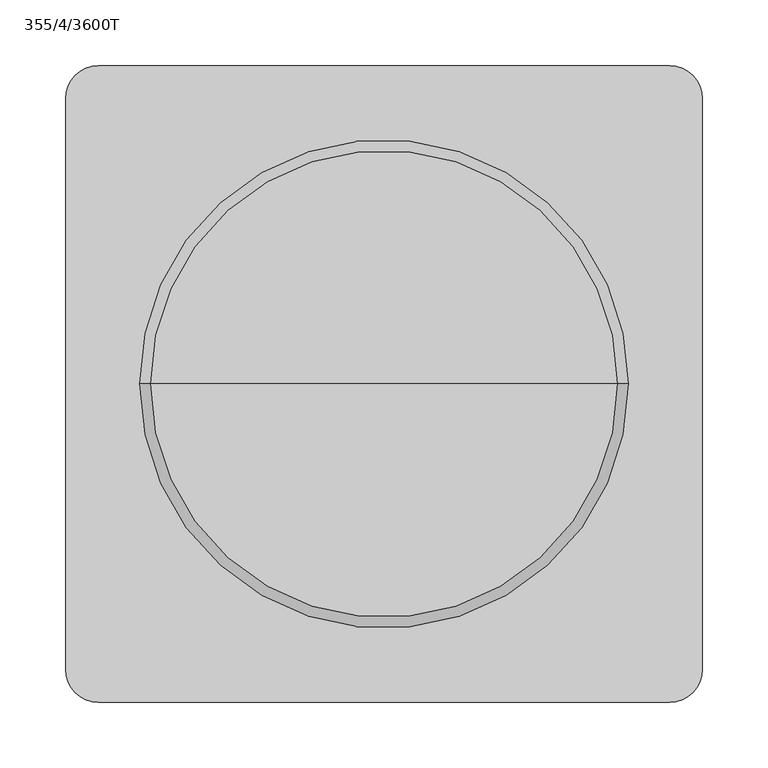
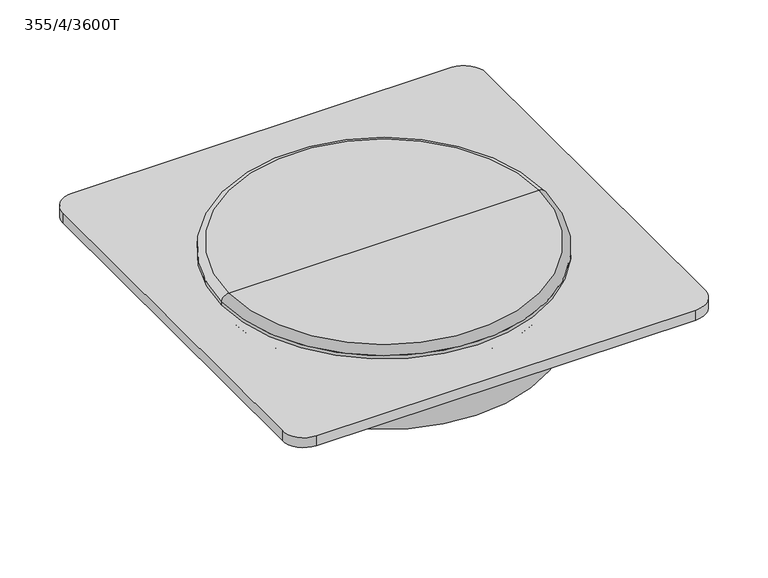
"""IFC4 building model written with IfcOpenShell, lengths in millimetres: unitary equipment geometry, VE-Wentylator-ParaForma-Harmann-WAF-Wywiewny : 355/4/3600T."""

from ifc_helpers import new_model, si_unit, point, frame, frame_2d, origin, origin_with_axes, origin_2d, place, context, project, spatial, polyline, circle_curve, ellipse_curve, trimmed, segment, composite_curve, outline, extrude, source, transform, mapped, element, save
from ifc_brep_helpers import plane_surface, cylinder_surface, revolved_surface, advanced_brep


def unitary_equipment_355_4_3600t_8e2043ff(model_context):
    return source(origin(), model_context, "Body", "SolidModel", [
        advanced_brep(
        [(186.0, 0.0, 12.0), (-186.0, 0.0, 12.0), (0.0, 0.0, 12.0), (186.0, 0.0, 16.0), (-186.0, 0.0, 16.0), (178.0, 0.0, 24.0), (-178.0, 0.0, 24.0), (0.0, 0.0, 24.0)],
        [
            (0, 1, circle_curve(frame((0.0, 0.0, 12.0), z_axis=(0.0, 0.0, -1.0), x_axis=(-1.0000000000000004, 0.0, 0.0)), 186.0)),
            (1, 2),
            (2, 0),
            (1, 0, circle_curve(frame((0.0, 0.0, 12.0), z_axis=(0.0, 0.0, -1.0), x_axis=(-1.0000000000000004, 0.0, 0.0)), 186.0)),
            (3, 4, circle_curve(frame((0.0, 0.0, 16.0), z_axis=(0.0, 0.0, -1.0), x_axis=(-1.0000000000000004, 0.0, 0.0)), 186.0)),
            (4, 1),
            (0, 3),
            (4, 3, circle_curve(frame((0.0, 0.0, 16.0), z_axis=(0.0, 0.0, -1.0), x_axis=(-1.0000000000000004, 0.0, 0.0)), 186.0)),
            (5, 6, circle_curve(frame((0.0, 0.0, 24.0), z_axis=(0.0, 0.0, -1.0), x_axis=(-1.0000000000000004, 0.0, 0.0)), 178.0)),
            (6, 4, circle_curve(frame((-178.0, 0.0, 16.0), z_axis=(0.0, -1.0000000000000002, 0.0), x_axis=(0.0, 0.0, -1.0000000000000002)), 8.0)),
            (3, 5, circle_curve(frame((178.0, 0.0, 16.0), z_axis=(0.0, -1.0000000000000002, 0.0), x_axis=(0.0, 0.0, -1.0000000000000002)), 8.0)),
            (6, 5, circle_curve(frame((0.0, 0.0, 24.0), z_axis=(0.0, 0.0, -1.0), x_axis=(-1.0000000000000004, 0.0, 0.0)), 178.0)),
            (7, 6),
            (5, 7),
        ],
        [
            plane_surface(frame((0.0, 0.0, 12.0), z_axis=(0.0, 0.0, -1.0), x_axis=(-1.0, 0.0, 0.0))),
            cylinder_surface(frame((0.0, 0.0, 24.0), z_axis=(0.0, 0.0, 1.0000000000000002), x_axis=(-1.0000000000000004, 0.0, 0.0)), 186.0),
            revolved_surface(trimmed(ellipse_curve(frame((-178.0, 0.0, 16.0), z_axis=(0.0, 1.0000000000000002, 0.0), x_axis=(0.0, 0.0, -1.0000000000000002)), 8.0, 8.0), [point((-186.0, 0.0, 16.0))], [point((-178.0, 0.0, 24.0))], True, "CARTESIAN"), (0.0, 0.0, 24.0), (0.0, 0.0, 1.0000000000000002)),
            plane_surface(frame((0.0, 0.0, 24.0), z_axis=(0.0, 0.0, 1.0), x_axis=(-1.0, 0.0, 0.0))),
        ],
        [
            (0, [[1, 2, 3]]),
            (0, [[4, -3, -2]]),
            (1, [[5, 6, -1, 7]]),
            (1, [[8, -7, -4, -6]]),
            (2, [[9, 10, -5, 11]]),
            (2, [[12, -11, -8, -10]]),
            (3, [[13, -9, 14]]),
            (3, [[-14, -12, -13]]),
        ],
    ),
        extrude(outline(composite_curve([segment(trimmed(circle_curve(origin_2d(), 55.8), [point((55.8, 0.0))], [point((-55.8, 0.0))], False, "CARTESIAN"), True, "CONTINUOUS"), segment(trimmed(circle_curve(origin_2d(), 55.8), [point((-55.8, 0.0))], [point((55.8, 0.0))], False, "CARTESIAN"), True, "CONTINUOUS")], self_intersect=False)), frame((0.0, 0.0, -90.0), z_axis=(0.0, 0.0, 1.0), x_axis=(1.0, 0.0, 0.0)), (0.0, 0.0, 1.0), 15.0),
        advanced_brep(
        [(0.0, 0.0, 0.0), (-186.0, 0.0, 0.0), (186.0, 0.0, 0.0), (183.5, 0.0, -75.0), (-183.5, 0.0, -75.0), (0.0, 0.0, -75.0), (183.5, 0.0, -2.5), (-183.5, 0.0, -2.5)],
        [
            (0, 1),
            (1, 2, circle_curve(frame((0.0, 0.0, 0.0), z_axis=(0.0, 0.0, 1.0), x_axis=(-1.0000000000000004, 0.0, 0.0)), 186.0)),
            (2, 0),
            (2, 1, circle_curve(frame((0.0, 0.0, 0.0), z_axis=(0.0, 0.0, 1.0), x_axis=(-1.0000000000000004, 0.0, 0.0)), 186.0)),
            (3, 4, circle_curve(frame((0.0, 0.0, -75.0), z_axis=(0.0, 0.0, -1.0), x_axis=(-1.0000000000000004, 0.0, 0.0)), 183.5)),
            (4, 5),
            (5, 3),
            (4, 3, circle_curve(frame((0.0, 0.0, -75.0), z_axis=(0.0, 0.0, -1.0), x_axis=(-1.0000000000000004, 0.0, 0.0)), 183.5)),
            (6, 7, circle_curve(frame((0.0, 0.0, -2.5), z_axis=(0.0, 0.0, -1.0), x_axis=(-1.0000000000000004, 0.0, 0.0)), 183.5)),
            (7, 4),
            (3, 6),
            (7, 6, circle_curve(frame((0.0, 0.0, -2.5), z_axis=(0.0, 0.0, -1.0), x_axis=(-1.0000000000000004, 0.0, 0.0)), 183.5)),
            (1, 7, circle_curve(frame((-186.0, 0.0, -2.5), z_axis=(0.0, 1.0000000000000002, 0.0), x_axis=(0.0, 0.0, -1.0000000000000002)), 2.5)),
            (6, 2, circle_curve(frame((186.0, 0.0, -2.5), z_axis=(0.0, 1.0000000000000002, 0.0), x_axis=(0.0, 0.0, -1.0000000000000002)), 2.5)),
        ],
        [
            plane_surface(frame((0.0, 0.0, 0.0), z_axis=(0.0, 0.0, 1.0), x_axis=(-1.0, 0.0, 0.0))),
            plane_surface(frame((0.0, 0.0, -75.0), z_axis=(0.0, 0.0, -1.0), x_axis=(-1.0, 0.0, 0.0))),
            cylinder_surface(frame((0.0, 0.0, 0.0), z_axis=(0.0, 0.0, 1.0000000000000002), x_axis=(-1.0000000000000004, 0.0, 0.0)), 183.5),
            revolved_surface(trimmed(ellipse_curve(frame((-186.0, 0.0, -2.5), z_axis=(0.0, -1.0000000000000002, 0.0), x_axis=(0.0, 0.0, -1.0000000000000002)), 2.5, 2.5), [point((-183.5, 0.0, -2.5))], [point((-186.0, 0.0, 0.0))], True, "CARTESIAN"), (0.0, 0.0, 0.0), (0.0, 0.0, 1.0000000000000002)),
        ],
        [
            (0, [[1, 2, 3]]),
            (0, [[-3, 4, -1]]),
            (1, [[5, 6, 7]]),
            (1, [[8, -7, -6]]),
            (2, [[9, 10, -5, 11]]),
            (2, [[12, -11, -8, -10]]),
            (3, [[-2, 13, -9, 14]]),
            (3, [[-4, -14, -12, -13]]),
        ],
    ),
        extrude(outline(composite_curve([segment(polyline([(217.5, -242.5), (-217.5, -242.5)]), True, "CONTINUOUS"), segment(trimmed(circle_curve(frame_2d((-217.5, -217.5)), 25.0), [point((-217.5, -242.5))], [point((-242.5, -217.5))], False, "CARTESIAN"), True, "CONTINUOUS"), segment(polyline([(-242.5, -217.5), (-242.5, 217.5)]), True, "CONTINUOUS"), segment(trimmed(circle_curve(frame_2d((-217.5, 217.5)), 25.0), [point((-242.5, 217.5))], [point((-217.5, 242.5))], False, "CARTESIAN"), True, "CONTINUOUS"), segment(polyline([(-217.5, 242.5), (217.5, 242.5)]), True, "CONTINUOUS"), segment(trimmed(circle_curve(frame_2d((217.5, 217.5)), 25.0), [point((217.5, 242.5))], [point((242.5, 217.5))], False, "CARTESIAN"), True, "CONTINUOUS"), segment(polyline([(242.5, 217.5), (242.5, -217.5)]), True, "CONTINUOUS"), segment(trimmed(circle_curve(frame_2d((217.5, -217.5)), 25.0), [point((242.5, -217.5))], [point((217.5, -242.5))], False, "CARTESIAN"), True, "CONTINUOUS")], self_intersect=False)), origin_with_axes(), (0.0, 0.0, 1.0), 12.0),
    ])


if __name__ == "__main__":
    model = new_model("IFC4")
    model_context = context("Model", 3, world=origin())
    ifc_project = project(units=[si_unit("LENGTHUNIT", "METRE", prefix="MILLI")], contexts=[model_context])
    site = spatial("IfcSite", under=ifc_project)
    building = spatial("IfcBuilding", under=site)
    placement = place(None, origin())
    unitary_equipment_355_4_3600t_shape = unitary_equipment_355_4_3600t_8e2043ff(model_context)
    element("IfcUnitaryEquipment", 1, ObjectType="VE-Wentylator-ParaForma-Harmann-WAF-Wywiewny : 355/4/3600T", at=placement, inside=building, context=model_context, shape_type="MappedRepresentation", body=[
        mapped(unitary_equipment_355_4_3600t_shape, transform((0.0, 0.0, 0.0), x_axis=(1.0, 0.0, 0.0), y_axis=(0.0, 1.0, 0.0), z_axis=(0.0, 0.0, 1.0))),
    ])
    save(model, "model.ifc")
